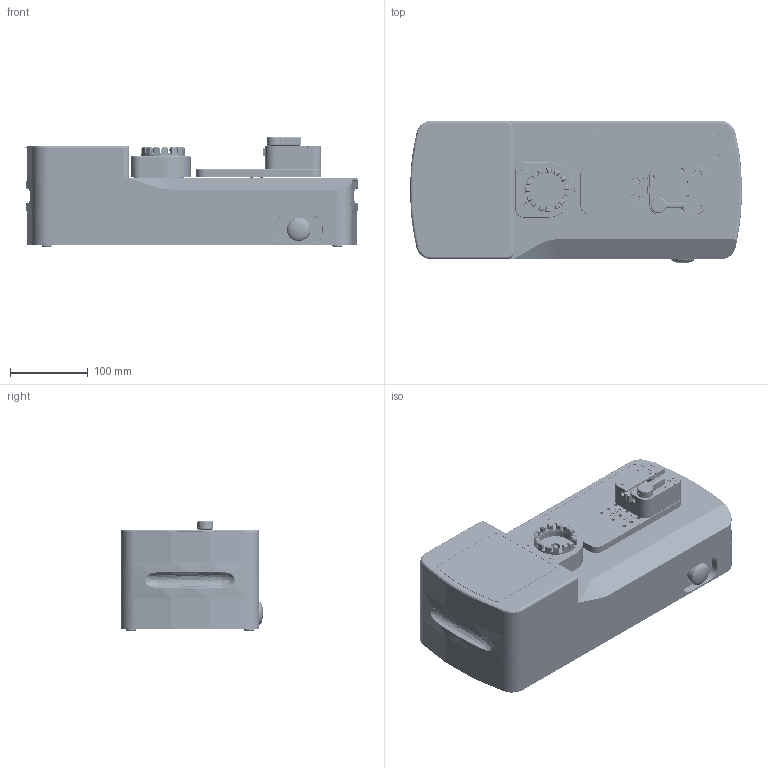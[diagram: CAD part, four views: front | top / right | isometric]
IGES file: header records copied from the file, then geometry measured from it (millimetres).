
Global section: file name: WT-205M; native system: Autodesk RealDWG; preprocessor: Autodesk Translation Framework DWG producer (atf_dwg_producer); organization: unknown; date: 20250422.111236; units: inch
Bounding box: 426.72 x 182.73 x 141.12 mm (x, y, z)
Volume: 3103904.9 mm3; surface area: 839914.3 mm2
Topology: 67 solids, 90 shells, 4906 faces, 13786 edges, 9311 vertices
Faces by surface type: bspline 4906
